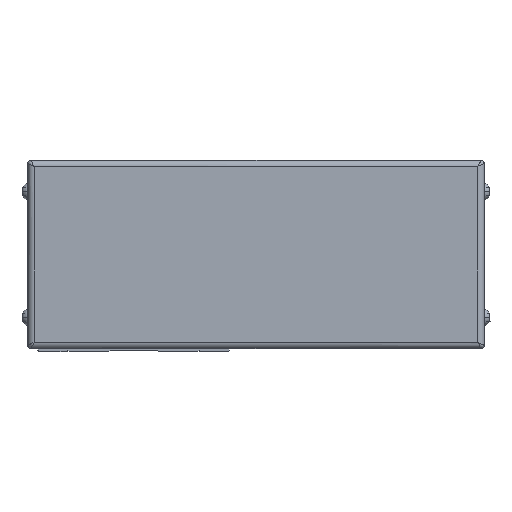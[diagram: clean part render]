
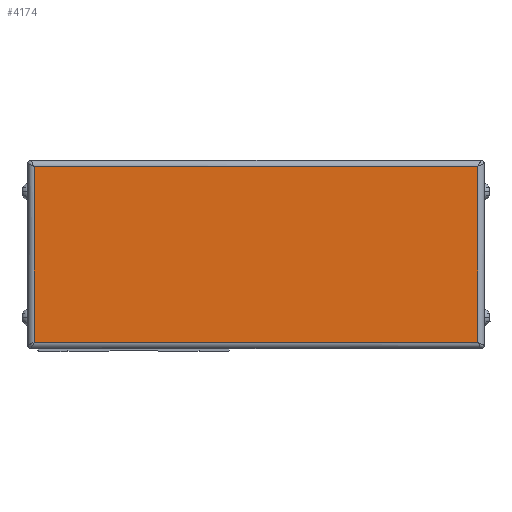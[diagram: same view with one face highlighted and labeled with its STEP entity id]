
A CAD part, left-side view. The second image highlights one B-rep face of the part: STEP entity #4174.
In plain terms, the highlighted planar face has unit normal (-1, 0, 0) as drawn and (0, 0, 1) by its records, which use the part's own axes.
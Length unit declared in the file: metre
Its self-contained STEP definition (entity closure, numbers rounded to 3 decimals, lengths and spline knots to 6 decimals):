
#4174=ADVANCED_FACE('',(#8560),#8561,.T.);
#8560=FACE_OUTER_BOUND('',#16765,.T.);
#8561=PLANE('',#16766);
#16765=EDGE_LOOP('',(#27527,#27528,#27529,#27530));
#16766=AXIS2_PLACEMENT_3D('',#27531,#27532,#27533);
#27527=ORIENTED_EDGE('',*,*,#32997,.F.);
#27528=ORIENTED_EDGE('',*,*,#32979,.F.);
#27529=ORIENTED_EDGE('',*,*,#32834,.F.);
#27530=ORIENTED_EDGE('',*,*,#35473,.F.);
#27531=CARTESIAN_POINT('',(-0.009,-0.053256,0.033889));
#27532=DIRECTION('',(0.0,0.0,1.0));
#27533=DIRECTION('',(1.0,0.0,0.0));
#32834=EDGE_CURVE('',#38783,#38786,#38787,.T.);
#32979=EDGE_CURVE('',#38786,#39012,#39017,.T.);
#32997=EDGE_CURVE('',#39012,#39046,#39047,.T.);
#35473=EDGE_CURVE('',#39046,#38783,#42574,.T.);
#38783=VERTEX_POINT('',#47056);
#38786=VERTEX_POINT('',#47068);
#38787=LINE('',#47069,#47070);
#39012=VERTEX_POINT('',#47429);
#39017=LINE('',#47453,#47454);
#39046=VERTEX_POINT('',#47502);
#39047=LINE('',#47503,#47504);
#42574=LINE('',#53036,#53037);
#47056=CARTESIAN_POINT('',(-0.037,-0.123956,0.033889));
#47068=CARTESIAN_POINT('',(-0.037,0.017444,0.033889));
#47069=CARTESIAN_POINT('',(-0.037,-0.053256,0.033889));
#47070=VECTOR('',#56133,1.0);
#47429=CARTESIAN_POINT('',(0.019,0.017444,0.033889));
#47453=CARTESIAN_POINT('',(-0.009,0.017444,0.033889));
#47454=VECTOR('',#56294,1.0);
#47502=CARTESIAN_POINT('',(0.019,-0.123956,0.033889));
#47503=CARTESIAN_POINT('',(0.019,-0.053256,0.033889));
#47504=VECTOR('',#56311,1.0);
#53036=CARTESIAN_POINT('',(-0.009,-0.123956,0.033889));
#53037=VECTOR('',#59165,1.0);
#56133=DIRECTION('',(0.0,1.0,0.0));
#56294=DIRECTION('',(1.0,0.0,0.0));
#56311=DIRECTION('',(0.0,-1.0,0.0));
#59165=DIRECTION('',(-1.0,0.0,0.0));
